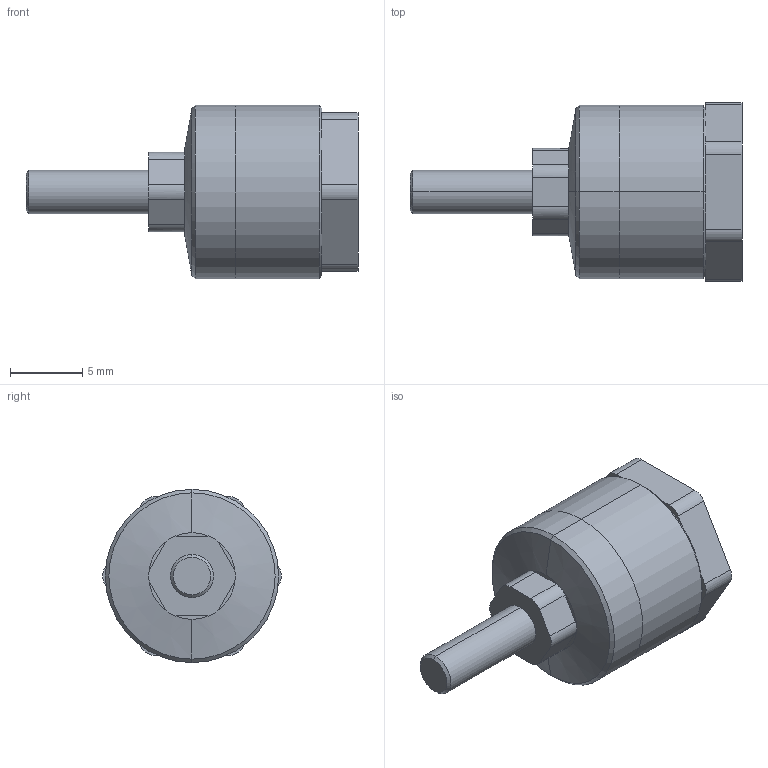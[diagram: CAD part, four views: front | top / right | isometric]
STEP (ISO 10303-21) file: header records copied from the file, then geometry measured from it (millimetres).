
FILE_DESCRIPTION (( 'STEP AP203' ), '1' );
FILE_NAME ('FCM3-0.5.STEP', '2016-03-23T03:39:17', ( 'Sam Lin' ), ( '' ), 'SwSTEP 2.0', 'SolidWorks 2013', '' );
FILE_SCHEMA (( 'CONFIG_CONTROL_DESIGN' ));
Length unit declared in the file: millimetre
Products named in the file (1): FCM3-0.5
Bounding box: 23 x 12.39 x 12 mm (x, y, z)
Volume: 1398 mm3; surface area: 838.2 mm2
Topology: 1 solids, 1 shells, 69 faces, 162 edges, 95 vertices
Faces by surface type: plane 39, cylinder 20, cone 10
Entity records: 2033 total; most frequent: DIRECTION 382, CARTESIAN_POINT 325, ORIENTED_EDGE 320, EDGE_CURVE 160, AXIS2_PLACEMENT_3D 152, VERTEX_POINT 95, CIRCLE 82, VECTOR 78
